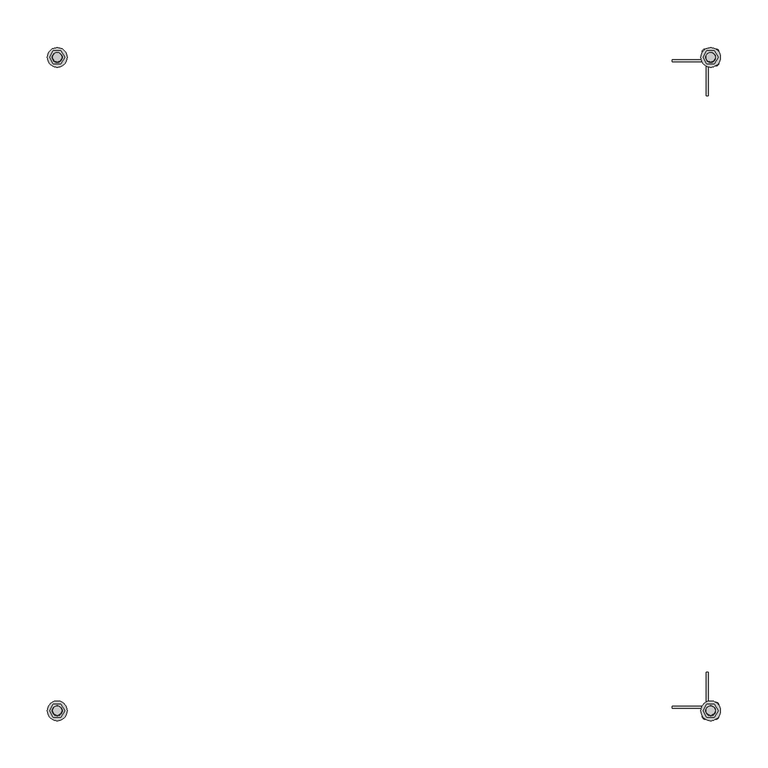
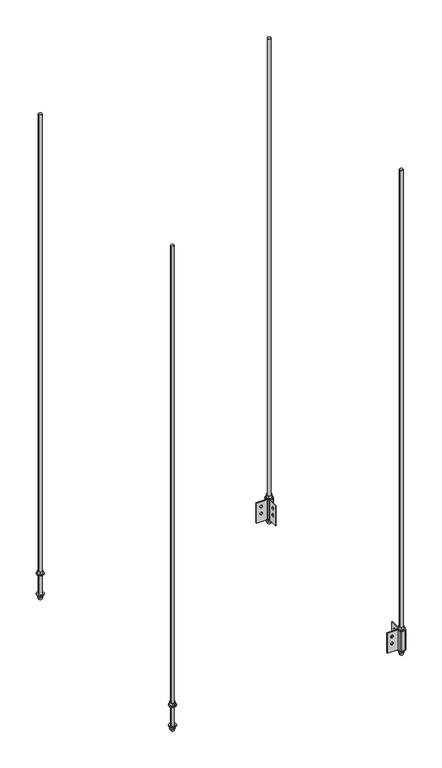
"""IFC4 building model written with IfcOpenShell, lengths in millimetres: proxy geometry."""

from ifc_helpers import new_model, si_unit, point, frame, frame_2d, origin, place, context, project, spatial, polyline, circle_curve, trimmed, segment, composite_curve, outline, extrude, source, transform, mapped, element, save
from ifc_brep_helpers import plane_surface, cylinder_surface, revolved_surface, advanced_brep


def generic_models_b93eb1c8(model_context):
    return source(origin(), model_context, "Body", "SolidModel", [
        extrude(outline(composite_curve([segment(trimmed(circle_curve(frame_2d((-344.3986, 680.9486)), 10.31875), [point((-354.71735, 680.9486))], [point((-334.07985, 680.9486))], False, "CARTESIAN"), True, "CONTINUOUS"), segment(trimmed(circle_curve(frame_2d((-344.3986, 680.9486)), 10.31875), [point((-334.07985, 680.9486))], [point((-354.71735, 680.9486))], False, "CARTESIAN"), True, "CONTINUOUS")], self_intersect=False), holes=[composite_curve([segment(trimmed(circle_curve(frame_2d((-344.3986, 680.9486)), 5.159375), [point((-349.557975, 680.9486))], [point((-339.239225, 680.9486))], True, "CARTESIAN"), True, "CONTINUOUS"), segment(trimmed(circle_curve(frame_2d((-344.3986, 680.9486)), 5.159375), [point((-339.239225, 680.9486))], [point((-349.557975, 680.9486))], True, "CARTESIAN"), True, "CONTINUOUS")], self_intersect=False)]), frame((0.0, 0.0, -1.5875), z_axis=(0.0, 0.0, 1.0), x_axis=(1.0, 0.0, 0.0)), (0.0, 0.0, 1.0), 1.5875),
        extrude(outline(polyline([(-348.36735, 687.8226766), (-340.42985, 687.8226766), (-336.4611, 680.9486), (-340.42985, 674.0745234), (-348.36735, 674.0745234), (-352.3361, 680.9486), (-348.36735, 687.8226766)]), holes=[composite_curve([segment(trimmed(circle_curve(frame_2d((-344.3986, 680.9486)), 5.159375), [point((-349.557975, 680.9486))], [point((-339.239225, 680.9486))], True, "CARTESIAN"), True, "CONTINUOUS"), segment(trimmed(circle_curve(frame_2d((-344.3986, 680.9486)), 5.159375), [point((-339.239225, 680.9486))], [point((-349.557975, 680.9486))], True, "CARTESIAN"), True, "CONTINUOUS")], self_intersect=False)]), frame((0.0, 0.0, -9.525), z_axis=(0.0, 0.0, 1.0), x_axis=(1.0, 0.0, 0.0)), (0.0, 0.0, 1.0), 7.9375),
        extrude(outline(composite_curve([segment(trimmed(circle_curve(frame_2d((344.3986, 680.9486)), 10.31875), [point((334.07985, 680.9486))], [point((354.71735, 680.9486))], False, "CARTESIAN"), True, "CONTINUOUS"), segment(trimmed(circle_curve(frame_2d((344.3986, 680.9486)), 10.31875), [point((354.71735, 680.9486))], [point((334.07985, 680.9486))], False, "CARTESIAN"), True, "CONTINUOUS")], self_intersect=False), holes=[composite_curve([segment(trimmed(circle_curve(frame_2d((344.3986, 680.9486)), 5.159375), [point((339.239225, 680.9486))], [point((349.557975, 680.9486))], True, "CARTESIAN"), True, "CONTINUOUS"), segment(trimmed(circle_curve(frame_2d((344.3986, 680.9486)), 5.159375), [point((349.557975, 680.9486))], [point((339.239225, 680.9486))], True, "CARTESIAN"), True, "CONTINUOUS")], self_intersect=False)]), frame((0.0, 0.0, -1.5875), z_axis=(0.0, 0.0, 1.0), x_axis=(1.0, 0.0, 0.0)), (0.0, 0.0, 1.0), 1.5875),
        extrude(outline(polyline([(340.42985, 687.8226766), (348.36735, 687.8226766), (352.3361, 680.9486), (348.36735, 674.0745234), (340.42985, 674.0745234), (336.4611, 680.9486), (340.42985, 687.8226766)]), holes=[composite_curve([segment(trimmed(circle_curve(frame_2d((344.3986, 680.9486)), 5.159375), [point((339.239225, 680.9486))], [point((349.557975, 680.9486))], True, "CARTESIAN"), True, "CONTINUOUS"), segment(trimmed(circle_curve(frame_2d((344.3986, 680.9486)), 5.159375), [point((349.557975, 680.9486))], [point((339.239225, 680.9486))], True, "CARTESIAN"), True, "CONTINUOUS")], self_intersect=False)]), frame((0.0, 0.0, -9.525), z_axis=(0.0, 0.0, 1.0), x_axis=(1.0, 0.0, 0.0)), (0.0, 0.0, 1.0), 7.9375),
        extrude(outline(composite_curve([segment(trimmed(circle_curve(frame_2d((-344.3986, 680.9486)), 10.31875), [point((-354.71735, 680.9486))], [point((-334.07985, 680.9486))], False, "CARTESIAN"), True, "CONTINUOUS"), segment(trimmed(circle_curve(frame_2d((-344.3986, 680.9486)), 10.31875), [point((-334.07985, 680.9486))], [point((-354.71735, 680.9486))], False, "CARTESIAN"), True, "CONTINUOUS")], self_intersect=False), holes=[composite_curve([segment(trimmed(circle_curve(frame_2d((-344.3986, 680.9486)), 5.159375), [point((-349.557975, 680.9486))], [point((-339.239225, 680.9486))], True, "CARTESIAN"), True, "CONTINUOUS"), segment(trimmed(circle_curve(frame_2d((-344.3986, 680.9486)), 5.159375), [point((-339.239225, 680.9486))], [point((-349.557975, 680.9486))], True, "CARTESIAN"), True, "CONTINUOUS")], self_intersect=False)]), frame((0.0, 0.0, 63.5), z_axis=(0.0, 0.0, 1.0), x_axis=(1.0, 0.0, 0.0)), (0.0, 0.0, 1.0), 1.5875),
        extrude(outline(polyline([(-348.36735, 687.8226766), (-340.42985, 687.8226766), (-336.4611, 680.9486), (-340.42985, 674.0745234), (-348.36735, 674.0745234), (-352.3361, 680.9486), (-348.36735, 687.8226766)]), holes=[composite_curve([segment(trimmed(circle_curve(frame_2d((-344.3986, 680.9486)), 5.159375), [point((-349.557975, 680.9486))], [point((-339.239225, 680.9486))], True, "CARTESIAN"), True, "CONTINUOUS"), segment(trimmed(circle_curve(frame_2d((-344.3986, 680.9486)), 5.159375), [point((-339.239225, 680.9486))], [point((-349.557975, 680.9486))], True, "CARTESIAN"), True, "CONTINUOUS")], self_intersect=False)]), frame((0.0, 0.0, 65.0875), z_axis=(0.0, 0.0, 1.0), x_axis=(1.0, 0.0, 0.0)), (0.0, 0.0, 1.0), 7.9375),
        extrude(outline(composite_curve([segment(trimmed(circle_curve(frame_2d((344.3986, 680.9486)), 10.31875), [point((334.07985, 680.9486))], [point((354.71735, 680.9486))], False, "CARTESIAN"), True, "CONTINUOUS"), segment(trimmed(circle_curve(frame_2d((344.3986, 680.9486)), 10.31875), [point((354.71735, 680.9486))], [point((334.07985, 680.9486))], False, "CARTESIAN"), True, "CONTINUOUS")], self_intersect=False), holes=[composite_curve([segment(trimmed(circle_curve(frame_2d((344.3986, 680.9486)), 5.159375), [point((339.239225, 680.9486))], [point((349.557975, 680.9486))], True, "CARTESIAN"), True, "CONTINUOUS"), segment(trimmed(circle_curve(frame_2d((344.3986, 680.9486)), 5.159375), [point((349.557975, 680.9486))], [point((339.239225, 680.9486))], True, "CARTESIAN"), True, "CONTINUOUS")], self_intersect=False)]), frame((0.0, 0.0, 63.5), z_axis=(0.0, 0.0, 1.0), x_axis=(1.0, 0.0, 0.0)), (0.0, 0.0, 1.0), 1.5875),
        extrude(outline(polyline([(340.42985, 687.8226766), (348.36735, 687.8226766), (352.3361, 680.9486), (348.36735, 674.0745234), (340.42985, 674.0745234), (336.4611, 680.9486), (340.42985, 687.8226766)]), holes=[composite_curve([segment(trimmed(circle_curve(frame_2d((344.3986, 680.9486)), 5.159375), [point((339.239225, 680.9486))], [point((349.557975, 680.9486))], True, "CARTESIAN"), True, "CONTINUOUS"), segment(trimmed(circle_curve(frame_2d((344.3986, 680.9486)), 5.159375), [point((349.557975, 680.9486))], [point((339.239225, 680.9486))], True, "CARTESIAN"), True, "CONTINUOUS")], self_intersect=False)]), frame((0.0, 0.0, 65.0875), z_axis=(0.0, 0.0, 1.0), x_axis=(1.0, 0.0, 0.0)), (0.0, 0.0, 1.0), 7.9375),
        extrude(outline(composite_curve([segment(trimmed(circle_curve(frame_2d((344.3986, -7.8486)), 10.31875), [point((334.07985, -7.8486))], [point((354.71735, -7.8486))], False, "CARTESIAN"), True, "CONTINUOUS"), segment(trimmed(circle_curve(frame_2d((344.3986, -7.8486)), 10.31875), [point((354.71735, -7.8486))], [point((334.07985, -7.8486))], False, "CARTESIAN"), True, "CONTINUOUS")], self_intersect=False), holes=[composite_curve([segment(trimmed(circle_curve(frame_2d((344.3986, -7.8486)), 5.159375), [point((339.239225, -7.8486))], [point((349.557975, -7.8486))], True, "CARTESIAN"), True, "CONTINUOUS"), segment(trimmed(circle_curve(frame_2d((344.3986, -7.8486)), 5.159375), [point((349.557975, -7.8486))], [point((339.239225, -7.8486))], True, "CARTESIAN"), True, "CONTINUOUS")], self_intersect=False)]), frame((0.0, 0.0, -1.5875), z_axis=(0.0, 0.0, 1.0), x_axis=(1.0, 0.0, 0.0)), (0.0, 0.0, 1.0), 1.5875),
        extrude(outline(polyline([(340.42985, -0.9745234), (348.36735, -0.9745234), (352.3361, -7.8486), (348.36735, -14.7226766), (340.42985, -14.7226766), (336.4611, -7.8486), (340.42985, -0.9745234)]), holes=[composite_curve([segment(trimmed(circle_curve(frame_2d((344.3986, -7.8486)), 5.159375), [point((339.239225, -7.8486))], [point((349.557975, -7.8486))], True, "CARTESIAN"), True, "CONTINUOUS"), segment(trimmed(circle_curve(frame_2d((344.3986, -7.8486)), 5.159375), [point((349.557975, -7.8486))], [point((339.239225, -7.8486))], True, "CARTESIAN"), True, "CONTINUOUS")], self_intersect=False)]), frame((0.0, 0.0, -9.525), z_axis=(0.0, 0.0, 1.0), x_axis=(1.0, 0.0, 0.0)), (0.0, 0.0, 1.0), 7.9375),
        extrude(outline(composite_curve([segment(trimmed(circle_curve(frame_2d((344.3986, -7.8486)), 10.31875), [point((334.07985, -7.8486))], [point((354.71735, -7.8486))], False, "CARTESIAN"), True, "CONTINUOUS"), segment(trimmed(circle_curve(frame_2d((344.3986, -7.8486)), 10.31875), [point((354.71735, -7.8486))], [point((334.07985, -7.8486))], False, "CARTESIAN"), True, "CONTINUOUS")], self_intersect=False), holes=[composite_curve([segment(trimmed(circle_curve(frame_2d((344.3986, -7.8486)), 5.159375), [point((339.239225, -7.8486))], [point((349.557975, -7.8486))], True, "CARTESIAN"), True, "CONTINUOUS"), segment(trimmed(circle_curve(frame_2d((344.3986, -7.8486)), 5.159375), [point((349.557975, -7.8486))], [point((339.239225, -7.8486))], True, "CARTESIAN"), True, "CONTINUOUS")], self_intersect=False)]), frame((0.0, 0.0, 63.5), z_axis=(0.0, 0.0, 1.0), x_axis=(1.0, 0.0, 0.0)), (0.0, 0.0, 1.0), 1.5875),
        extrude(outline(polyline([(340.42985, -0.9745234), (348.36735, -0.9745234), (352.3361, -7.8486), (348.36735, -14.7226766), (340.42985, -14.7226766), (336.4611, -7.8486), (340.42985, -0.9745234)]), holes=[composite_curve([segment(trimmed(circle_curve(frame_2d((344.3986, -7.8486)), 5.159375), [point((339.239225, -7.8486))], [point((349.557975, -7.8486))], True, "CARTESIAN"), True, "CONTINUOUS"), segment(trimmed(circle_curve(frame_2d((344.3986, -7.8486)), 5.159375), [point((349.557975, -7.8486))], [point((339.239225, -7.8486))], True, "CARTESIAN"), True, "CONTINUOUS")], self_intersect=False)]), frame((0.0, 0.0, 65.0875), z_axis=(0.0, 0.0, 1.0), x_axis=(1.0, 0.0, 0.0)), (0.0, 0.0, 1.0), 7.9375),
        extrude(outline(composite_curve([segment(trimmed(circle_curve(frame_2d((-344.3986, -7.8486)), 10.31875), [point((-354.71735, -7.8486))], [point((-334.07985, -7.8486))], False, "CARTESIAN"), True, "CONTINUOUS"), segment(trimmed(circle_curve(frame_2d((-344.3986, -7.8486)), 10.31875), [point((-334.07985, -7.8486))], [point((-354.71735, -7.8486))], False, "CARTESIAN"), True, "CONTINUOUS")], self_intersect=False), holes=[composite_curve([segment(trimmed(circle_curve(frame_2d((-344.3986, -7.8486)), 5.159375), [point((-349.557975, -7.8486))], [point((-339.239225, -7.8486))], True, "CARTESIAN"), True, "CONTINUOUS"), segment(trimmed(circle_curve(frame_2d((-344.3986, -7.8486)), 5.159375), [point((-339.239225, -7.8486))], [point((-349.557975, -7.8486))], True, "CARTESIAN"), True, "CONTINUOUS")], self_intersect=False)]), frame((0.0, 0.0, 63.5), z_axis=(0.0, 0.0, 1.0), x_axis=(1.0, 0.0, 0.0)), (0.0, 0.0, 1.0), 1.5875),
        extrude(outline(polyline([(-348.36735, -0.9745234), (-340.42985, -0.9745234), (-336.4611, -7.8486), (-340.42985, -14.7226766), (-348.36735, -14.7226766), (-352.3361, -7.8486), (-348.36735, -0.9745234)]), holes=[composite_curve([segment(trimmed(circle_curve(frame_2d((-344.3986, -7.8486)), 5.159375), [point((-349.557975, -7.8486))], [point((-339.239225, -7.8486))], True, "CARTESIAN"), True, "CONTINUOUS"), segment(trimmed(circle_curve(frame_2d((-344.3986, -7.8486)), 5.159375), [point((-339.239225, -7.8486))], [point((-349.557975, -7.8486))], True, "CARTESIAN"), True, "CONTINUOUS")], self_intersect=False)]), frame((0.0, 0.0, 65.0875), z_axis=(0.0, 0.0, 1.0), x_axis=(1.0, 0.0, 0.0)), (0.0, 0.0, 1.0), 7.9375),
        extrude(outline(composite_curve([segment(trimmed(circle_curve(frame_2d((-344.3986, -7.8486)), 10.31875), [point((-354.71735, -7.8486))], [point((-334.07985, -7.8486))], False, "CARTESIAN"), True, "CONTINUOUS"), segment(trimmed(circle_curve(frame_2d((-344.3986, -7.8486)), 10.31875), [point((-334.07985, -7.8486))], [point((-354.71735, -7.8486))], False, "CARTESIAN"), True, "CONTINUOUS")], self_intersect=False), holes=[composite_curve([segment(trimmed(circle_curve(frame_2d((-344.3986, -7.8486)), 5.159375), [point((-349.557975, -7.8486))], [point((-339.239225, -7.8486))], True, "CARTESIAN"), True, "CONTINUOUS"), segment(trimmed(circle_curve(frame_2d((-344.3986, -7.8486)), 5.159375), [point((-339.239225, -7.8486))], [point((-349.557975, -7.8486))], True, "CARTESIAN"), True, "CONTINUOUS")], self_intersect=False)]), frame((0.0, 0.0, -1.5875), z_axis=(0.0, 0.0, 1.0), x_axis=(1.0, 0.0, 0.0)), (0.0, 0.0, 1.0), 1.5875),
        extrude(outline(polyline([(-348.36735, -0.9745234), (-340.42985, -0.9745234), (-336.4611, -7.8486), (-340.42985, -14.7226766), (-348.36735, -14.7226766), (-352.3361, -7.8486), (-348.36735, -0.9745234)]), holes=[composite_curve([segment(trimmed(circle_curve(frame_2d((-344.3986, -7.8486)), 5.159375), [point((-349.557975, -7.8486))], [point((-339.239225, -7.8486))], True, "CARTESIAN"), True, "CONTINUOUS"), segment(trimmed(circle_curve(frame_2d((-344.3986, -7.8486)), 5.159375), [point((-339.239225, -7.8486))], [point((-349.557975, -7.8486))], True, "CARTESIAN"), True, "CONTINUOUS")], self_intersect=False)]), frame((0.0, 0.0, -9.525), z_axis=(0.0, 0.0, 1.0), x_axis=(1.0, 0.0, 0.0)), (0.0, 0.0, 1.0), 7.9375),
        extrude(outline(composite_curve([segment(trimmed(circle_curve(frame_2d((344.3986, 680.9486)), 4.7625), [point((339.6361, 680.9486))], [point((349.1611, 680.9486))], False, "CARTESIAN"), True, "CONTINUOUS"), segment(trimmed(circle_curve(frame_2d((344.3986, 680.9486)), 4.7625), [point((349.1611, 680.9486))], [point((339.6361, 680.9486))], False, "CARTESIAN"), True, "CONTINUOUS")], self_intersect=False)), frame((0.0, 0.0, -15.875), z_axis=(0.0, 0.0, 1.0), x_axis=(1.0, 0.0, 0.0)), (0.0, 0.0, 1.0), 1539.875),
        extrude(outline(composite_curve([segment(trimmed(circle_curve(frame_2d((-344.3986, 680.9486)), 4.7625), [point((-349.1611, 680.9486))], [point((-339.6361, 680.9486))], False, "CARTESIAN"), True, "CONTINUOUS"), segment(trimmed(circle_curve(frame_2d((-344.3986, 680.9486)), 4.7625), [point((-339.6361, 680.9486))], [point((-349.1611, 680.9486))], False, "CARTESIAN"), True, "CONTINUOUS")], self_intersect=False)), frame((0.0, 0.0, -15.875), z_axis=(0.0, 0.0, 1.0), x_axis=(1.0, 0.0, 0.0)), (0.0, 0.0, 1.0), 1539.875),
        extrude(outline(composite_curve([segment(trimmed(circle_curve(frame_2d((344.3986, -7.8486)), 4.7625), [point((339.6361, -7.8486))], [point((349.1611, -7.8486))], False, "CARTESIAN"), True, "CONTINUOUS"), segment(trimmed(circle_curve(frame_2d((344.3986, -7.8486)), 4.7625), [point((349.1611, -7.8486))], [point((339.6361, -7.8486))], False, "CARTESIAN"), True, "CONTINUOUS")], self_intersect=False)), frame((0.0, 0.0, -15.875), z_axis=(0.0, 0.0, 1.0), x_axis=(1.0, 0.0, 0.0)), (0.0, 0.0, 1.0), 1539.875),
        extrude(outline(composite_curve([segment(trimmed(circle_curve(frame_2d((-344.3986, -7.8486)), 4.7625), [point((-349.1611, -7.8486))], [point((-339.6361, -7.8486))], False, "CARTESIAN"), True, "CONTINUOUS"), segment(trimmed(circle_curve(frame_2d((-344.3986, -7.8486)), 4.7625), [point((-339.6361, -7.8486))], [point((-349.1611, -7.8486))], False, "CARTESIAN"), True, "CONTINUOUS")], self_intersect=False)), frame((0.0, 0.0, -15.875), z_axis=(0.0, 0.0, 1.0), x_axis=(1.0, 0.0, 0.0)), (0.0, 0.0, 1.0), 1539.875),
        advanced_brep(
        [(303.7332, 678.2816, 63.5), (303.7332, 676.275, 63.5), (334.8736, 676.275, 63.5), (337.6422, 679.0436, 63.5), (337.6422, 686.943, 63.5), (338.4042, 687.705, 63.5), (350.393, 687.705, 63.5), (351.155, 686.943, 63.5), (351.155, 674.9542, 63.5), (350.393, 674.1922, 63.5), (342.4936, 674.1922, 63.5), (339.725, 671.4236, 63.5), (339.725, 640.2832, 63.5), (341.7316, 640.2832, 63.5), (341.7316, 671.4236, 63.5), (342.4936, 672.1856, 63.5), (350.393, 672.1856, 63.5), (353.1616, 674.9542, 63.5), (353.1616, 686.943, 63.5), (350.393, 689.7116, 63.5), (338.4042, 689.7116, 63.5), (335.6356, 686.943, 63.5), (335.6356, 679.0436, 63.5), (334.8736, 678.2816, 63.5), (303.7332, 678.2816, 0.0), (334.8736, 678.2816, 0.0), (335.6356, 679.0436, 0.0), (335.6356, 686.943, 0.0), (338.4042, 689.7116, 0.0), (350.393, 689.7116, 0.0), (353.1616, 686.943, 0.0), (353.1616, 674.9542, 0.0), (350.393, 672.1856, 0.0), (342.4936, 672.1856, 0.0), (341.7316, 671.4236, 0.0), (341.7316, 640.2832, 0.0), (339.725, 640.2832, 0.0), (339.725, 671.4236, 0.0), (342.4936, 674.1922, 0.0), (350.393, 674.1922, 0.0), (351.155, 674.9542, 0.0), (351.155, 686.943, 0.0), (350.393, 687.705, 0.0), (338.4042, 687.705, 0.0), (337.6422, 686.943, 0.0), (337.6422, 679.0436, 0.0), (334.8736, 676.275, 0.0), (303.7332, 676.275, 0.0), (321.0687, 676.275, 25.4), (313.9313, 676.275, 25.4), (321.0687, 676.275, 47.625), (313.9313, 676.275, 47.625), (339.725, 650.4813, 47.625), (339.725, 657.6187, 47.625), (339.725, 650.4813, 25.4), (339.725, 657.6187, 25.4), (341.7316, 657.6187, 47.625), (341.7316, 650.4813, 47.625), (341.7316, 657.6187, 25.4), (341.7316, 650.4813, 25.4), (313.9313, 678.2816, 25.4), (321.0687, 678.2816, 25.4), (313.9313, 678.2816, 47.625), (321.0687, 678.2816, 47.625)],
        [
            (0, 1),
            (1, 2),
            (2, 3, circle_curve(frame((334.8736, 679.0436, 63.5), z_axis=(0.0, 0.0, 1.0), x_axis=(1.0, 0.0, 0.0)), 2.7686)),
            (3, 4),
            (4, 5, circle_curve(frame((338.4042, 686.943, 63.5), z_axis=(0.0, 0.0, -1.0), x_axis=(1.0, 0.0, 0.0)), 0.762)),
            (5, 6),
            (6, 7, circle_curve(frame((350.393, 686.943, 63.5), z_axis=(0.0, 0.0, -1.0), x_axis=(1.0, 0.0, 0.0)), 0.762)),
            (7, 8),
            (8, 9, circle_curve(frame((350.393, 674.9542, 63.5), z_axis=(0.0, 0.0, -1.0), x_axis=(1.0, 0.0, 0.0)), 0.762)),
            (9, 10),
            (10, 11, circle_curve(frame((342.4936, 671.4236, 63.5), z_axis=(0.0, 0.0, 1.0), x_axis=(1.0, 0.0, 0.0)), 2.7686)),
            (11, 12),
            (12, 13),
            (13, 14),
            (14, 15, circle_curve(frame((342.4936, 671.4236, 63.5), z_axis=(0.0, 0.0, -1.0), x_axis=(1.0, 0.0, 0.0)), 0.762)),
            (15, 16),
            (16, 17, circle_curve(frame((350.393, 674.9542, 63.5), z_axis=(0.0, 0.0, 1.0), x_axis=(1.0, 0.0, 0.0)), 2.7686)),
            (17, 18),
            (18, 19, circle_curve(frame((350.393, 686.943, 63.5), z_axis=(0.0, 0.0, 1.0), x_axis=(1.0, 0.0, 0.0)), 2.7686)),
            (19, 20),
            (20, 21, circle_curve(frame((338.4042, 686.943, 63.5), z_axis=(0.0, 0.0, 1.0), x_axis=(1.0, 0.0, 0.0)), 2.7686)),
            (21, 22),
            (22, 23, circle_curve(frame((334.8736, 679.0436, 63.5), z_axis=(0.0, 0.0, -1.0), x_axis=(1.0, 0.0, 0.0)), 0.762)),
            (23, 0),
            (24, 25),
            (25, 26, circle_curve(frame((334.8736, 679.0436, 0.0), z_axis=(0.0, 0.0, 1.0), x_axis=(1.0, 0.0, 0.0)), 0.762)),
            (26, 27),
            (27, 28, circle_curve(frame((338.4042, 686.943, 0.0), z_axis=(0.0, 0.0, -1.0), x_axis=(1.0, 0.0, 0.0)), 2.7686)),
            (28, 29),
            (29, 30, circle_curve(frame((350.393, 686.943, 0.0), z_axis=(0.0, 0.0, -1.0), x_axis=(1.0, 0.0, 0.0)), 2.7686)),
            (30, 31),
            (31, 32, circle_curve(frame((350.393, 674.9542, 0.0), z_axis=(0.0, 0.0, -1.0), x_axis=(1.0, 0.0, 0.0)), 2.7686)),
            (32, 33),
            (33, 34, circle_curve(frame((342.4936, 671.4236, 0.0), z_axis=(0.0, 0.0, 1.0), x_axis=(1.0, 0.0, 0.0)), 0.762)),
            (34, 35),
            (35, 36),
            (36, 37),
            (37, 38, circle_curve(frame((342.4936, 671.4236, 0.0), z_axis=(0.0, 0.0, -1.0), x_axis=(1.0, 0.0, 0.0)), 2.7686)),
            (38, 39),
            (39, 40, circle_curve(frame((350.393, 674.9542, 0.0), z_axis=(0.0, 0.0, 1.0), x_axis=(1.0, 0.0, 0.0)), 0.762)),
            (40, 41),
            (41, 42, circle_curve(frame((350.393, 686.943, 0.0), z_axis=(0.0, 0.0, 1.0), x_axis=(1.0, 0.0, 0.0)), 0.762)),
            (42, 43),
            (43, 44, circle_curve(frame((338.4042, 686.943, 0.0), z_axis=(0.0, 0.0, 1.0), x_axis=(1.0, 0.0, 0.0)), 0.762)),
            (44, 45),
            (45, 46, circle_curve(frame((334.8736, 679.0436, 0.0), z_axis=(0.0, 0.0, -1.0), x_axis=(1.0, 0.0, 0.0)), 2.7686)),
            (46, 47),
            (47, 24),
            (0, 24),
            (47, 1),
            (46, 2),
            (48, 49, circle_curve(frame((317.5, 676.275, 25.4), z_axis=(0.0, 1.0, 0.0), x_axis=(-1.0, 0.0, 0.0)), 3.5687)),
            (49, 48, circle_curve(frame((317.5, 676.275, 25.4), z_axis=(0.0, 1.0, 0.0), x_axis=(-1.0, 0.0, 0.0)), 3.5687)),
            (50, 51, circle_curve(frame((317.5, 676.275, 47.625), z_axis=(0.0, 1.0, 0.0), x_axis=(-1.0, 0.0, 0.0)), 3.5687)),
            (51, 50, circle_curve(frame((317.5, 676.275, 47.625), z_axis=(0.0, 1.0, 0.0), x_axis=(-1.0, 0.0, 0.0)), 3.5687)),
            (45, 3),
            (44, 4),
            (43, 5),
            (42, 6),
            (41, 7),
            (40, 8),
            (39, 9),
            (38, 10),
            (37, 11),
            (36, 12),
            (52, 53, circle_curve(frame((339.725, 654.05, 47.625), z_axis=(1.0, 0.0, 0.0), x_axis=(0.0, -1.0, 0.0)), 3.5687)),
            (53, 52, circle_curve(frame((339.725, 654.05, 47.625), z_axis=(1.0, 0.0, 0.0), x_axis=(0.0, -1.0, 0.0)), 3.5687)),
            (54, 55, circle_curve(frame((339.725, 654.05, 25.4), z_axis=(1.0, 0.0, 0.0), x_axis=(0.0, -1.0, 0.0)), 3.5687)),
            (55, 54, circle_curve(frame((339.725, 654.05, 25.4), z_axis=(1.0, 0.0, 0.0), x_axis=(0.0, -1.0, 0.0)), 3.5687)),
            (35, 13),
            (34, 14),
            (56, 57, circle_curve(frame((341.7316, 654.05, 47.625), z_axis=(-1.0, 0.0, 0.0), x_axis=(0.0, -1.0, 0.0)), 3.5687)),
            (57, 56, circle_curve(frame((341.7316, 654.05, 47.625), z_axis=(-1.0, 0.0, 0.0), x_axis=(0.0, -1.0, 0.0)), 3.5687)),
            (58, 59, circle_curve(frame((341.7316, 654.05, 25.4), z_axis=(-1.0, 0.0, 0.0), x_axis=(0.0, -1.0, 0.0)), 3.5687)),
            (59, 58, circle_curve(frame((341.7316, 654.05, 25.4), z_axis=(-1.0, 0.0, 0.0), x_axis=(0.0, -1.0, 0.0)), 3.5687)),
            (33, 15),
            (32, 16),
            (31, 17),
            (30, 18),
            (29, 19),
            (28, 20),
            (27, 21),
            (26, 22),
            (25, 23),
            (60, 61, circle_curve(frame((317.5, 678.2816, 25.4), z_axis=(0.0, -1.0, 0.0), x_axis=(-1.0, 0.0, 0.0)), 3.5687)),
            (61, 60, circle_curve(frame((317.5, 678.2816, 25.4), z_axis=(0.0, -1.0, 0.0), x_axis=(-1.0, 0.0, 0.0)), 3.5687)),
            (62, 63, circle_curve(frame((317.5, 678.2816, 47.625), z_axis=(0.0, -1.0, 0.0), x_axis=(-1.0, 0.0, 0.0)), 3.5687)),
            (63, 62, circle_curve(frame((317.5, 678.2816, 47.625), z_axis=(0.0, -1.0, 0.0), x_axis=(-1.0, 0.0, 0.0)), 3.5687)),
            (56, 53),
            (52, 57),
            (58, 55),
            (54, 59),
            (48, 61),
            (60, 49),
            (50, 63),
            (62, 51),
        ],
        [
            plane_surface(frame((303.7332, 676.275, 63.5), z_axis=(0.0, 0.0, 1.0), x_axis=(0.0, -1.0, 0.0))),
            plane_surface(frame((303.7332, 676.275, 0.0), z_axis=(0.0, 0.0, -1.0), x_axis=(0.0, 1.0, 0.0))),
            plane_surface(frame((303.7332, 678.2816, 63.5), z_axis=(-1.0, 0.0, 0.0), x_axis=(0.0, 0.0, -1.0))),
            plane_surface(frame((303.7332, 676.275, 63.5), z_axis=(0.0, -1.0, 0.0), x_axis=(0.0, 0.0, -1.0))),
            cylinder_surface(frame((334.8736, 679.0436, 0.0), z_axis=(0.0, 0.0, 1.0), x_axis=(1.0, 0.0, 0.0)), 2.7686),
            plane_surface(frame((337.6422, 679.0436, 63.5), z_axis=(1.0, 0.0, 0.0), x_axis=(0.0, 0.0, -1.0))),
            revolved_surface(polyline([(339.1662, 686.943, 0.0), (339.1662, 686.943, 63.5)]), (338.4042, 686.943, 0.0), (0.0, 0.0, -1.0)),
            plane_surface(frame((338.4042, 687.705, 63.5), z_axis=(0.0, -1.0, 0.0), x_axis=(0.0, 0.0, -1.0))),
            revolved_surface(polyline([(351.155, 686.943, 0.0), (351.155, 686.943, 63.5)]), (350.393, 686.943, 0.0), (0.0, 0.0, -1.0)),
            plane_surface(frame((351.155, 686.943, 63.5), z_axis=(-1.0, 0.0, 0.0), x_axis=(0.0, 0.0, -1.0))),
            revolved_surface(polyline([(351.155, 674.9542, 0.0), (351.155, 674.9542, 63.5)]), (350.393, 674.9542, 0.0), (0.0, 0.0, -1.0)),
            plane_surface(frame((350.393, 674.1922, 63.5), z_axis=(0.0, 1.0, 0.0), x_axis=(0.0, 0.0, -1.0))),
            cylinder_surface(frame((342.4936, 671.4236, 0.0), z_axis=(0.0, 0.0, 1.0), x_axis=(1.0, 0.0, 0.0)), 2.7686),
            plane_surface(frame((339.725, 671.4236, 63.5), z_axis=(-1.0, 0.0, 0.0), x_axis=(0.0, 0.0, -1.0))),
            plane_surface(frame((339.725, 640.2832, 63.5), z_axis=(0.0, -1.0, 0.0), x_axis=(0.0, 0.0, -1.0))),
            plane_surface(frame((341.7316, 640.2832, 63.5), z_axis=(1.0, 0.0, 0.0), x_axis=(0.0, 0.0, -1.0))),
            revolved_surface(polyline([(343.2556, 671.4236, 0.0), (343.2556, 671.4236, 63.5)]), (342.4936, 671.4236, 0.0), (0.0, 0.0, -1.0)),
            plane_surface(frame((342.4936, 672.1856, 63.5), z_axis=(0.0, -1.0, 0.0), x_axis=(0.0, 0.0, -1.0))),
            cylinder_surface(frame((350.393, 674.9542, 0.0), z_axis=(0.0, 0.0, 1.0), x_axis=(1.0, 0.0, 0.0)), 2.7686),
            plane_surface(frame((353.1616, 674.9542, 63.5), z_axis=(1.0, 0.0, 0.0), x_axis=(0.0, 0.0, -1.0))),
            cylinder_surface(frame((350.393, 686.943, 0.0), z_axis=(0.0, 0.0, 1.0), x_axis=(1.0, 0.0, 0.0)), 2.7686),
            plane_surface(frame((350.393, 689.7116, 63.5), z_axis=(0.0, 1.0, 0.0), x_axis=(0.0, 0.0, -1.0))),
            cylinder_surface(frame((338.4042, 686.943, 0.0), z_axis=(0.0, 0.0, 1.0), x_axis=(1.0, 0.0, 0.0)), 2.7686),
            plane_surface(frame((335.6356, 686.943, 63.5), z_axis=(-1.0, 0.0, 0.0), x_axis=(0.0, 0.0, -1.0))),
            revolved_surface(polyline([(335.6356, 679.0436, 0.0), (335.6356, 679.0436, 63.5)]), (334.8736, 679.0436, 0.0), (0.0, 0.0, -1.0)),
            plane_surface(frame((334.8736, 678.2816, 63.5), z_axis=(0.0, 1.0, 0.0), x_axis=(0.0, 0.0, -1.0))),
            revolved_surface(polyline([(339.725, 650.4812999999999, 47.625), (341.7316, 650.4812999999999, 47.625)]), (344.3986, 654.05, 47.625), (-1.0, 0.0, 0.0)),
            revolved_surface(polyline([(339.725, 650.4812999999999, 25.4), (341.7316, 650.4812999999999, 25.4)]), (344.3986, 654.05, 25.4), (-1.0, 0.0, 0.0)),
            revolved_surface(polyline([(313.9313, 678.2816, 25.4), (313.9313, 676.275, 25.4)]), (317.5, 673.1, 25.4), (0.0, 1.0, 0.0)),
            revolved_surface(polyline([(313.9313, 678.2816, 47.625), (313.9313, 676.275, 47.625)]), (317.5, 680.9486, 47.625), (0.0, 1.0, 0.0)),
        ],
        [
            (0, [[1, 2, 3, 4, 5, 6, 7, 8, 9, 10, 11, 12, 13, 14, 15, 16, 17, 18, 19, 20, 21, 22, 23, 24]]),
            (1, [[25, 26, 27, 28, 29, 30, 31, 32, 33, 34, 35, 36, 37, 38, 39, 40, 41, 42, 43, 44, 45, 46, 47, 48]]),
            (2, [[-1, 49, -48, 50]]),
            (3, [[-2, -50, -47, 51], [52, 53], [54, 55]]),
            (4, [[-3, -51, -46, 56]]),
            (5, [[-4, -56, -45, 57]]),
            (6, [[-5, -57, -44, 58]]),
            (7, [[-6, -58, -43, 59]]),
            (8, [[-7, -59, -42, 60]]),
            (9, [[-8, -60, -41, 61]]),
            (10, [[-9, -61, -40, 62]]),
            (11, [[-10, -62, -39, 63]]),
            (12, [[-11, -63, -38, 64]]),
            (13, [[-12, -64, -37, 65], [66, 67], [68, 69]]),
            (14, [[-13, -65, -36, 70]]),
            (15, [[-14, -70, -35, 71], [72, 73], [74, 75]]),
            (16, [[-15, -71, -34, 76]]),
            (17, [[-16, -76, -33, 77]]),
            (18, [[-17, -77, -32, 78]]),
            (19, [[-18, -78, -31, 79]]),
            (20, [[-19, -79, -30, 80]]),
            (21, [[-20, -80, -29, 81]]),
            (22, [[-21, -81, -28, 82]]),
            (23, [[-22, -82, -27, 83]]),
            (24, [[-23, -83, -26, 84]]),
            (25, [[-24, -84, -25, -49], [85, 86], [87, 88]]),
            (26, [[89, -66, 90, -72]]),
            (26, [[-89, -73, -90, -67]]),
            (27, [[91, -68, 92, -74]]),
            (27, [[-91, -75, -92, -69]]),
            (28, [[93, -85, 94, -52]]),
            (28, [[-93, -53, -94, -86]]),
            (29, [[95, -87, 96, -54]]),
            (29, [[-95, -55, -96, -88]]),
        ],
    ),
        advanced_brep(
        [(341.7316, 32.8168, 63.5), (339.725, 32.8168, 63.5), (339.725, 1.6764, 63.5), (342.4936, -1.0922, 63.5), (350.393, -1.0922, 63.5), (351.155, -1.8542, 63.5), (351.155, -13.843, 63.5), (350.393, -14.605, 63.5), (338.4042, -14.605, 63.5), (337.6422, -13.843, 63.5), (337.6422, -5.9436, 63.5), (334.8736, -3.175, 63.5), (303.7332, -3.175, 63.5), (303.7332, -5.1816, 63.5), (334.8736, -5.1816, 63.5), (335.6356, -5.9436, 63.5), (335.6356, -13.843, 63.5), (338.4042, -16.6116, 63.5), (350.393, -16.6116, 63.5), (353.1616, -13.843, 63.5), (353.1616, -1.8542, 63.5), (350.393, 0.9144, 63.5), (342.4936, 0.9144, 63.5), (341.7316, 1.6764, 63.5), (341.7316, 32.8168, 0.0), (341.7316, 1.6764, 0.0), (342.4936, 0.9144, 0.0), (350.393, 0.9144, 0.0), (353.1616, -1.8542, 0.0), (353.1616, -13.843, 0.0), (350.393, -16.6116, 0.0), (338.4042, -16.6116, 0.0), (335.6356, -13.843, 0.0), (335.6356, -5.9436, 0.0), (334.8736, -5.1816, 0.0), (303.7332, -5.1816, 0.0), (303.7332, -3.175, 0.0), (334.8736, -3.175, 0.0), (337.6422, -5.9436, 0.0), (337.6422, -13.843, 0.0), (338.4042, -14.605, 0.0), (350.393, -14.605, 0.0), (351.155, -13.843, 0.0), (351.155, -1.8542, 0.0), (350.393, -1.0922, 0.0), (342.4936, -1.0922, 0.0), (339.725, 1.6764, 0.0), (339.725, 32.8168, 0.0), (339.725, 15.4813, 47.625), (339.725, 22.6187, 47.625), (339.725, 15.4813, 25.4), (339.725, 22.6187, 25.4), (313.9313, -3.175, 47.625), (321.0687, -3.175, 47.625), (313.9313, -3.175, 25.4), (321.0687, -3.175, 25.4), (321.0687, -5.1816, 47.625), (313.9313, -5.1816, 47.625), (321.0687, -5.1816, 25.4), (313.9313, -5.1816, 25.4), (341.7316, 22.6187, 47.625), (341.7316, 15.4813, 47.625), (341.7316, 22.6187, 25.4), (341.7316, 15.4813, 25.4)],
        [
            (0, 1),
            (1, 2),
            (2, 3, circle_curve(frame((342.4936, 1.6764, 63.5), z_axis=(0.0, 0.0, 1.0), x_axis=(1.0, 0.0, 0.0)), 2.7686)),
            (3, 4),
            (4, 5, circle_curve(frame((350.393, -1.8542, 63.5), z_axis=(0.0, 0.0, -1.0), x_axis=(1.0, 0.0, 0.0)), 0.762)),
            (5, 6),
            (6, 7, circle_curve(frame((350.393, -13.843, 63.5), z_axis=(0.0, 0.0, -1.0), x_axis=(1.0, 0.0, 0.0)), 0.762)),
            (7, 8),
            (8, 9, circle_curve(frame((338.4042, -13.843, 63.5), z_axis=(0.0, 0.0, -1.0), x_axis=(1.0, 0.0, 0.0)), 0.762)),
            (9, 10),
            (10, 11, circle_curve(frame((334.8736, -5.9436, 63.5), z_axis=(0.0, 0.0, 1.0), x_axis=(1.0, 0.0, 0.0)), 2.7686)),
            (11, 12),
            (12, 13),
            (13, 14),
            (14, 15, circle_curve(frame((334.8736, -5.9436, 63.5), z_axis=(0.0, 0.0, -1.0), x_axis=(1.0, 0.0, 0.0)), 0.762)),
            (15, 16),
            (16, 17, circle_curve(frame((338.4042, -13.843, 63.5), z_axis=(0.0, 0.0, 1.0), x_axis=(1.0, 0.0, 0.0)), 2.7686)),
            (17, 18),
            (18, 19, circle_curve(frame((350.393, -13.843, 63.5), z_axis=(0.0, 0.0, 1.0), x_axis=(1.0, 0.0, 0.0)), 2.7686)),
            (19, 20),
            (20, 21, circle_curve(frame((350.393, -1.8542, 63.5), z_axis=(0.0, 0.0, 1.0), x_axis=(1.0, 0.0, 0.0)), 2.7686)),
            (21, 22),
            (22, 23, circle_curve(frame((342.4936, 1.6764, 63.5), z_axis=(0.0, 0.0, -1.0), x_axis=(1.0, 0.0, 0.0)), 0.762)),
            (23, 0),
            (24, 25),
            (25, 26, circle_curve(frame((342.4936, 1.6764, 0.0), z_axis=(0.0, 0.0, 1.0), x_axis=(1.0, 0.0, 0.0)), 0.762)),
            (26, 27),
            (27, 28, circle_curve(frame((350.393, -1.8542, 0.0), z_axis=(0.0, 0.0, -1.0), x_axis=(1.0, 0.0, 0.0)), 2.7686)),
            (28, 29),
            (29, 30, circle_curve(frame((350.393, -13.843, 0.0), z_axis=(0.0, 0.0, -1.0), x_axis=(1.0, 0.0, 0.0)), 2.7686)),
            (30, 31),
            (31, 32, circle_curve(frame((338.4042, -13.843, 0.0), z_axis=(0.0, 0.0, -1.0), x_axis=(1.0, 0.0, 0.0)), 2.7686)),
            (32, 33),
            (33, 34, circle_curve(frame((334.8736, -5.9436, 0.0), z_axis=(0.0, 0.0, 1.0), x_axis=(1.0, 0.0, 0.0)), 0.762)),
            (34, 35),
            (35, 36),
            (36, 37),
            (37, 38, circle_curve(frame((334.8736, -5.9436, 0.0), z_axis=(0.0, 0.0, -1.0), x_axis=(1.0, 0.0, 0.0)), 2.7686)),
            (38, 39),
            (39, 40, circle_curve(frame((338.4042, -13.843, 0.0), z_axis=(0.0, 0.0, 1.0), x_axis=(1.0, 0.0, 0.0)), 0.762)),
            (40, 41),
            (41, 42, circle_curve(frame((350.393, -13.843, 0.0), z_axis=(0.0, 0.0, 1.0), x_axis=(1.0, 0.0, 0.0)), 0.762)),
            (42, 43),
            (43, 44, circle_curve(frame((350.393, -1.8542, 0.0), z_axis=(0.0, 0.0, 1.0), x_axis=(1.0, 0.0, 0.0)), 0.762)),
            (44, 45),
            (45, 46, circle_curve(frame((342.4936, 1.6764, 0.0), z_axis=(0.0, 0.0, -1.0), x_axis=(1.0, 0.0, 0.0)), 2.7686)),
            (46, 47),
            (47, 24),
            (0, 24),
            (47, 1),
            (46, 2),
            (48, 49, circle_curve(frame((339.725, 19.05, 47.625), z_axis=(1.0, 0.0, 0.0), x_axis=(0.0, -1.0, 0.0)), 3.5687)),
            (49, 48, circle_curve(frame((339.725, 19.05, 47.625), z_axis=(1.0, 0.0, 0.0), x_axis=(0.0, -1.0, 0.0)), 3.5687)),
            (50, 51, circle_curve(frame((339.725, 19.05, 25.4), z_axis=(1.0, 0.0, 0.0), x_axis=(0.0, -1.0, 0.0)), 3.5687)),
            (51, 50, circle_curve(frame((339.725, 19.05, 25.4), z_axis=(1.0, 0.0, 0.0), x_axis=(0.0, -1.0, 0.0)), 3.5687)),
            (45, 3),
            (44, 4),
            (43, 5),
            (42, 6),
            (41, 7),
            (40, 8),
            (39, 9),
            (38, 10),
            (37, 11),
            (36, 12),
            (52, 53, circle_curve(frame((317.5, -3.175, 47.625), z_axis=(0.0, -1.0, 0.0), x_axis=(-1.0, 0.0, 0.0)), 3.5687)),
            (53, 52, circle_curve(frame((317.5, -3.175, 47.625), z_axis=(0.0, -1.0, 0.0), x_axis=(-1.0, 0.0, 0.0)), 3.5687)),
            (54, 55, circle_curve(frame((317.5, -3.175, 25.4), z_axis=(0.0, -1.0, 0.0), x_axis=(-1.0, 0.0, 0.0)), 3.5687)),
            (55, 54, circle_curve(frame((317.5, -3.175, 25.4), z_axis=(0.0, -1.0, 0.0), x_axis=(-1.0, 0.0, 0.0)), 3.5687)),
            (35, 13),
            (34, 14),
            (56, 57, circle_curve(frame((317.5, -5.1816, 47.625), z_axis=(0.0, 1.0, 0.0), x_axis=(-1.0, 0.0, 0.0)), 3.5687)),
            (57, 56, circle_curve(frame((317.5, -5.1816, 47.625), z_axis=(0.0, 1.0, 0.0), x_axis=(-1.0, 0.0, 0.0)), 3.5687)),
            (58, 59, circle_curve(frame((317.5, -5.1816, 25.4), z_axis=(0.0, 1.0, 0.0), x_axis=(-1.0, 0.0, 0.0)), 3.5687)),
            (59, 58, circle_curve(frame((317.5, -5.1816, 25.4), z_axis=(0.0, 1.0, 0.0), x_axis=(-1.0, 0.0, 0.0)), 3.5687)),
            (33, 15),
            (32, 16),
            (31, 17),
            (30, 18),
            (29, 19),
            (28, 20),
            (27, 21),
            (26, 22),
            (25, 23),
            (60, 61, circle_curve(frame((341.7316, 19.05, 47.625), z_axis=(-1.0, 0.0, 0.0), x_axis=(0.0, -1.0, 0.0)), 3.5687)),
            (61, 60, circle_curve(frame((341.7316, 19.05, 47.625), z_axis=(-1.0, 0.0, 0.0), x_axis=(0.0, -1.0, 0.0)), 3.5687)),
            (62, 63, circle_curve(frame((341.7316, 19.05, 25.4), z_axis=(-1.0, 0.0, 0.0), x_axis=(0.0, -1.0, 0.0)), 3.5687)),
            (63, 62, circle_curve(frame((341.7316, 19.05, 25.4), z_axis=(-1.0, 0.0, 0.0), x_axis=(0.0, -1.0, 0.0)), 3.5687)),
            (56, 53),
            (52, 57),
            (58, 55),
            (54, 59),
            (60, 49),
            (48, 61),
            (62, 51),
            (50, 63),
        ],
        [
            plane_surface(frame((339.725, 32.8168, 63.5), z_axis=(0.0, 0.0, 1.0), x_axis=(-1.0, 0.0, 0.0))),
            plane_surface(frame((339.725, 32.8168, 0.0), z_axis=(0.0, 0.0, -1.0), x_axis=(1.0, 0.0, 0.0))),
            plane_surface(frame((341.7316, 32.8168, 63.5), z_axis=(0.0, 1.0, 0.0), x_axis=(0.0, 0.0, -1.0))),
            plane_surface(frame((339.725, 32.8168, 63.5), z_axis=(-1.0, 0.0, 0.0), x_axis=(0.0, 0.0, -1.0))),
            cylinder_surface(frame((342.4936, 1.6764, 0.0), z_axis=(0.0, 0.0, 1.0), x_axis=(1.0, 0.0, 0.0)), 2.7686),
            plane_surface(frame((342.4936, -1.0922, 63.5), z_axis=(0.0, -1.0, 0.0), x_axis=(0.0, 0.0, -1.0))),
            revolved_surface(polyline([(351.155, -1.8542, 0.0), (351.155, -1.8542, 63.5)]), (350.393, -1.8542, 0.0), (0.0, 0.0, -1.0)),
            plane_surface(frame((351.155, -1.8542, 63.5), z_axis=(-1.0, 0.0, 0.0), x_axis=(0.0, 0.0, -1.0))),
            revolved_surface(polyline([(351.155, -13.843, 0.0), (351.155, -13.843, 63.5)]), (350.393, -13.843, 0.0), (0.0, 0.0, -1.0)),
            plane_surface(frame((350.393, -14.605, 63.5), z_axis=(0.0, 1.0, 0.0), x_axis=(0.0, 0.0, -1.0))),
            revolved_surface(polyline([(339.1662, -13.843, 0.0), (339.1662, -13.843, 63.5)]), (338.4042, -13.843, 0.0), (0.0, 0.0, -1.0)),
            plane_surface(frame((337.6422, -13.843, 63.5), z_axis=(1.0, 0.0, 0.0), x_axis=(0.0, 0.0, -1.0))),
            cylinder_surface(frame((334.8736, -5.9436, 0.0), z_axis=(0.0, 0.0, 1.0), x_axis=(1.0, 0.0, 0.0)), 2.7686),
            plane_surface(frame((334.8736, -3.175, 63.5), z_axis=(0.0, 1.0, 0.0), x_axis=(0.0, 0.0, -1.0))),
            plane_surface(frame((303.7332, -3.175, 63.5), z_axis=(-1.0, 0.0, 0.0), x_axis=(0.0, 0.0, -1.0))),
            plane_surface(frame((303.7332, -5.1816, 63.5), z_axis=(0.0, -1.0, 0.0), x_axis=(0.0, 0.0, -1.0))),
            revolved_surface(polyline([(335.6356, -5.9436, 0.0), (335.6356, -5.9436, 63.5)]), (334.8736, -5.9436, 0.0), (0.0, 0.0, -1.0)),
            plane_surface(frame((335.6356, -5.9436, 63.5), z_axis=(-1.0, 0.0, 0.0), x_axis=(0.0, 0.0, -1.0))),
            cylinder_surface(frame((338.4042, -13.843, 0.0), z_axis=(0.0, 0.0, 1.0), x_axis=(1.0, 0.0, 0.0)), 2.7686),
            plane_surface(frame((338.4042, -16.6116, 63.5), z_axis=(0.0, -1.0, 0.0), x_axis=(0.0, 0.0, -1.0))),
            cylinder_surface(frame((350.393, -13.843, 0.0), z_axis=(0.0, 0.0, 1.0), x_axis=(1.0, 0.0, 0.0)), 2.7686),
            plane_surface(frame((353.1616, -13.843, 63.5), z_axis=(1.0, 0.0, 0.0), x_axis=(0.0, 0.0, -1.0))),
            cylinder_surface(frame((350.393, -1.8542, 0.0), z_axis=(0.0, 0.0, 1.0), x_axis=(1.0, 0.0, 0.0)), 2.7686),
            plane_surface(frame((350.393, 0.9144, 63.5), z_axis=(0.0, 1.0, 0.0), x_axis=(0.0, 0.0, -1.0))),
            revolved_surface(polyline([(343.2556, 1.6764, 0.0), (343.2556, 1.6764, 63.5)]), (342.4936, 1.6764, 0.0), (0.0, 0.0, -1.0)),
            plane_surface(frame((341.7316, 1.6764, 63.5), z_axis=(1.0, 0.0, 0.0), x_axis=(0.0, 0.0, -1.0))),
            revolved_surface(polyline([(313.9313, -3.175, 47.625), (313.9313, -5.1816, 47.625)]), (317.5, -7.8486, 47.625), (0.0, 1.0, 0.0)),
            revolved_surface(polyline([(313.9313, -3.175, 25.4), (313.9313, -5.1816, 25.4)]), (317.5, -7.8486, 25.4), (0.0, 1.0, 0.0)),
            revolved_surface(polyline([(339.725, 15.481300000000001, 47.625), (341.7316, 15.481300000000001, 47.625)]), (344.3986, 19.05, 47.625), (-1.0, 0.0, 0.0)),
            revolved_surface(polyline([(339.725, 15.481300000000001, 25.4), (341.7316, 15.481300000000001, 25.4)]), (344.3986, 19.05, 25.4), (-1.0, 0.0, 0.0)),
        ],
        [
            (0, [[1, 2, 3, 4, 5, 6, 7, 8, 9, 10, 11, 12, 13, 14, 15, 16, 17, 18, 19, 20, 21, 22, 23, 24]]),
            (1, [[25, 26, 27, 28, 29, 30, 31, 32, 33, 34, 35, 36, 37, 38, 39, 40, 41, 42, 43, 44, 45, 46, 47, 48]]),
            (2, [[-1, 49, -48, 50]]),
            (3, [[-2, -50, -47, 51], [52, 53], [54, 55]]),
            (4, [[-3, -51, -46, 56]]),
            (5, [[-4, -56, -45, 57]]),
            (6, [[-5, -57, -44, 58]]),
            (7, [[-6, -58, -43, 59]]),
            (8, [[-7, -59, -42, 60]]),
            (9, [[-8, -60, -41, 61]]),
            (10, [[-9, -61, -40, 62]]),
            (11, [[-10, -62, -39, 63]]),
            (12, [[-11, -63, -38, 64]]),
            (13, [[-12, -64, -37, 65], [66, 67], [68, 69]]),
            (14, [[-13, -65, -36, 70]]),
            (15, [[-14, -70, -35, 71], [72, 73], [74, 75]]),
            (16, [[-15, -71, -34, 76]]),
            (17, [[-16, -76, -33, 77]]),
            (18, [[-17, -77, -32, 78]]),
            (19, [[-18, -78, -31, 79]]),
            (20, [[-19, -79, -30, 80]]),
            (21, [[-20, -80, -29, 81]]),
            (22, [[-21, -81, -28, 82]]),
            (23, [[-22, -82, -27, 83]]),
            (24, [[-23, -83, -26, 84]]),
            (25, [[-24, -84, -25, -49], [85, 86], [87, 88]]),
            (26, [[89, -66, 90, -72]]),
            (26, [[-89, -73, -90, -67]]),
            (27, [[91, -68, 92, -74]]),
            (27, [[-91, -75, -92, -69]]),
            (28, [[93, -52, 94, -85]]),
            (28, [[-93, -86, -94, -53]]),
            (29, [[95, -54, 96, -87]]),
            (29, [[-95, -88, -96, -55]]),
        ],
    ),
    ])


if __name__ == "__main__":
    model = new_model("IFC4")
    model_context = context("Model", 3, world=origin())
    ifc_project = project(units=[si_unit("LENGTHUNIT", "METRE", prefix="MILLI")], contexts=[model_context])
    site = spatial("IfcSite", under=ifc_project)
    building = spatial("IfcBuilding", under=site)
    placement = place(None, origin())
    generic_models_shape = generic_models_b93eb1c8(model_context)
    element("IfcBuildingElementProxy", 1, Name="Generic Models", at=placement, inside=building, context=model_context, shape_type="MappedRepresentation", body=[
        mapped(generic_models_shape, transform((0.0, 0.0, 0.0), x_axis=(1.0, 0.0, 0.0), y_axis=(0.0, 1.0, 0.0), z_axis=(0.0, 0.0, 1.0))),
    ])
    save(model, "model.ifc")
